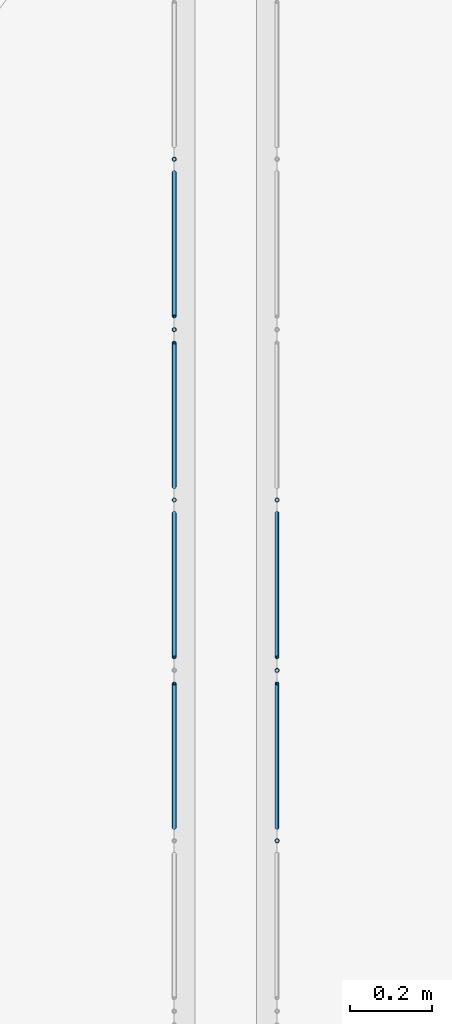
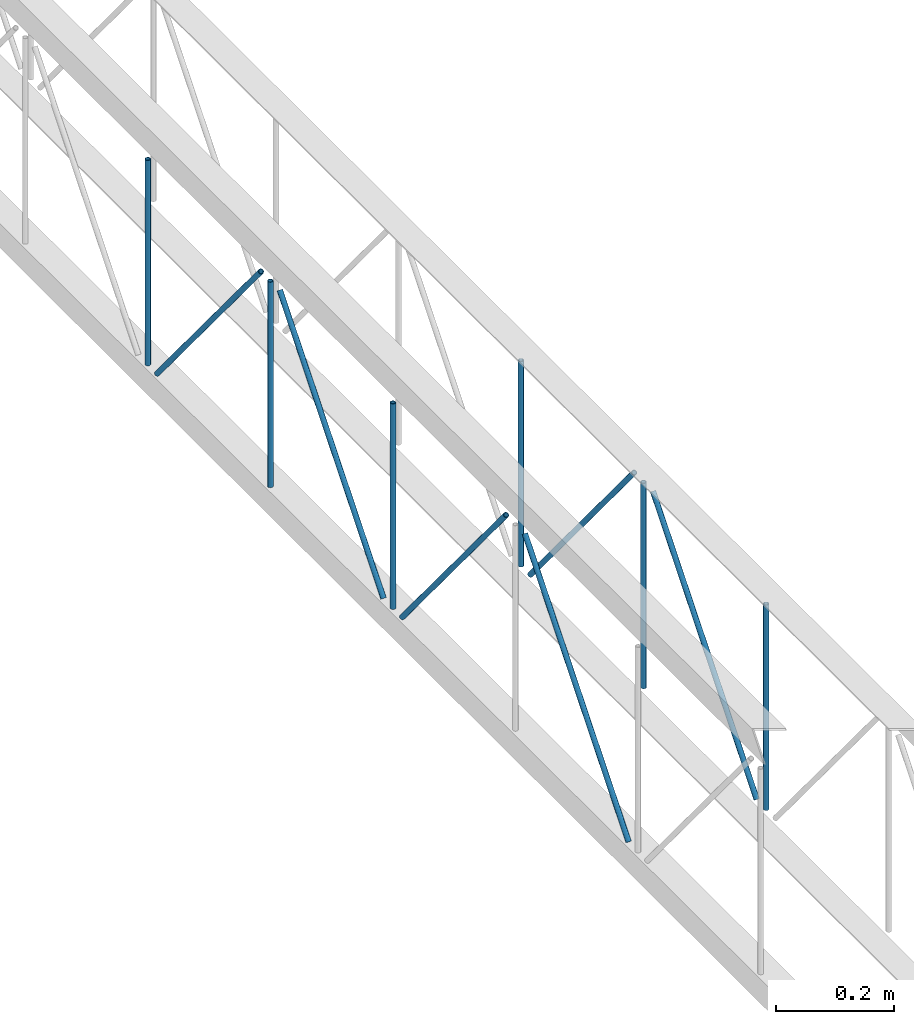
# One storey, part 24 of 153: 12 members, 2 elements without a shape of their own.
"""IFC4 building model written with IfcOpenShell, lengths in metres."""

from ifc_helpers import new_model, entity, si_unit, converted_unit, derived_unit, direction, frame, origin, place, context, subcontext, project, spatial, arc, indexed_curve, outline, extrude, source, transform, mapped, material, type_object, type_shapes, element, aggregate, save


model = new_model("IFC4")

# Units and contexts
model_context = context("Model", 3, precision=1e-05, world=origin(), true_north=direction((6.123031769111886e-17, 1.0)))
body_context = subcontext(model_context, "Body", "Model", "MODEL_VIEW")
ifc_project = project(units=[si_unit("LENGTHUNIT", "METRE"), si_unit("AREAUNIT", "SQUARE_METRE"), si_unit("VOLUMEUNIT", "CUBIC_METRE"), converted_unit("PLANEANGLEUNIT", "DEGREE", entity("IfcRatioMeasure", 0.017453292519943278), si_unit("PLANEANGLEUNIT", "RADIAN"), dimensions=[0, 0, 0, 0, 0, 0, 0]), si_unit("MASSUNIT", "GRAM", prefix="KILO"), derived_unit("MASSDENSITYUNIT", [(si_unit("MASSUNIT", "GRAM", prefix="KILO"), 1), (si_unit("LENGTHUNIT", "METRE"), -3)]), derived_unit("MOMENTOFINERTIAUNIT", [(si_unit("LENGTHUNIT", "METRE"), 4)]), si_unit("TIMEUNIT", "SECOND"), si_unit("FREQUENCYUNIT", "HERTZ"), si_unit("THERMODYNAMICTEMPERATUREUNIT", "DEGREE_CELSIUS"), derived_unit("THERMALTRANSMITTANCEUNIT", [(si_unit("MASSUNIT", "GRAM", prefix="KILO"), 1), (si_unit("THERMODYNAMICTEMPERATUREUNIT", "KELVIN"), -1), (si_unit("TIMEUNIT", "SECOND"), -3)]), derived_unit("VOLUMETRICFLOWRATEUNIT", [(si_unit("LENGTHUNIT", "METRE"), 3), (si_unit("TIMEUNIT", "SECOND"), -1)]), derived_unit("MASSFLOWRATEUNIT", [(si_unit("MASSUNIT", "GRAM", prefix="KILO"), 1), (si_unit("TIMEUNIT", "SECOND"), -1)]), derived_unit("ROTATIONALFREQUENCYUNIT", [(si_unit("TIMEUNIT", "SECOND"), -1)]), si_unit("ELECTRICCURRENTUNIT", "AMPERE"), si_unit("ELECTRICVOLTAGEUNIT", "VOLT"), si_unit("POWERUNIT", "WATT"), si_unit("FORCEUNIT", "NEWTON", prefix="KILO"), si_unit("ILLUMINANCEUNIT", "LUX"), si_unit("LUMINOUSFLUXUNIT", "LUMEN"), si_unit("LUMINOUSINTENSITYUNIT", "CANDELA"), derived_unit("USERDEFINED", [(si_unit("MASSUNIT", "GRAM", prefix="KILO"), -1), (si_unit("LENGTHUNIT", "METRE"), -2), (si_unit("TIMEUNIT", "SECOND"), 3), (si_unit("LUMINOUSFLUXUNIT", "LUMEN"), 1)]), derived_unit("SOUNDPOWERUNIT", [(si_unit("MASSUNIT", "GRAM", prefix="KILO"), 1), (si_unit("LENGTHUNIT", "METRE"), 2), (si_unit("TIMEUNIT", "SECOND"), -3)]), derived_unit("SOUNDPRESSUREUNIT", [(si_unit("MASSUNIT", "GRAM", prefix="KILO"), 1), (si_unit("LENGTHUNIT", "METRE"), -1), (si_unit("TIMEUNIT", "SECOND"), -2)]), derived_unit("LINEARVELOCITYUNIT", [(si_unit("LENGTHUNIT", "METRE"), 1), (si_unit("TIMEUNIT", "SECOND"), -1)]), si_unit("PRESSUREUNIT", "PASCAL"), derived_unit("USERDEFINED", [(si_unit("LENGTHUNIT", "METRE"), -2), (si_unit("MASSUNIT", "GRAM", prefix="KILO"), 1), (si_unit("TIMEUNIT", "SECOND"), -2)]), derived_unit("LINEARFORCEUNIT", [(si_unit("MASSUNIT", "GRAM", prefix="KILO"), 1), (si_unit("LENGTHUNIT", "METRE"), 1), (si_unit("TIMEUNIT", "SECOND"), -2), (si_unit("LENGTHUNIT", "METRE"), -1)]), derived_unit("PLANARFORCEUNIT", [(si_unit("MASSUNIT", "GRAM", prefix="KILO"), 1), (si_unit("LENGTHUNIT", "METRE"), 1), (si_unit("TIMEUNIT", "SECOND"), -2), (si_unit("LENGTHUNIT", "METRE"), -2)])], contexts=[model_context])

# Site, building, storey
site_placement = place(None, origin())
site = spatial("IfcSite", under=ifc_project, at=site_placement, Name="Superficie", CompositionType="ELEMENT")
building_placement = place(site_placement, origin())
building = spatial("IfcBuilding", under=site, at=building_placement, CompositionType="ELEMENT")
storey_placement = place(building_placement, frame((0.0, 0.0, 3.5999999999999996)))
storey = spatial("IfcBuildingStorey", under=building, at=storey_placement, Name="Nivel 1", CompositionType="ELEMENT", Elevation=3.5999999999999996)

# Assembly, members
assembly_1_placement = place(storey_placement, origin())
assembly_1 = element("IfcElementAssembly", 1, at=assembly_1_placement, inside=storey, Name="Viga de celosia 13:Viga de celosia 13", ObjectType="Viga de celosia 13:Viga de celosia 13", AssemblyPlace="NOTDEFINED", PredefinedType="TRUSS")
ifc_material = material(Name="Metal - Calibre delgado", Category="Metal")
member_type_1 = type_object("IfcMemberType", Name="HSS-Tubo estructural redondo:HSS 0.01", PredefinedType="BRACE", material=ifc_material)
shared_shape_1 = source(origin(), body_context, "Body", "SweptSolid", [
    extrude(outline(indexed_curve([(-0.005000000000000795, 7.502054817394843e-18), (-9.800269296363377e-18, -0.005000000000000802), (0.005000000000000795, -7.502054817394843e-18), (8.07772287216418e-18, 0.005000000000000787)], segments=[arc(1, 2, 3), arc(3, 4, 1)], self_intersect=False), holes=[indexed_curve([(0.003999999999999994, 7.222511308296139e-17), (6.910645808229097e-17, -0.004000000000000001), (-0.003999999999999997, -1.8650054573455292e-17), (-2.9156497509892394e-17, 0.003999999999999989)], segments=[arc(1, 2, 3), arc(3, 4, 1)], self_intersect=False)]), frame((-0.21200000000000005, 0.0, 0.0), z_axis=(1.0, 0.0, 0.0), x_axis=(0.0, 1.0, 0.0)), (0.0, 0.0, 1.0), 0.4240000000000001),
])
type_shapes(member_type_1, [shared_shape_1])
member_1_placement = place(assembly_1_placement, frame((-18.70320098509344, -6.2340293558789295, 0.24999999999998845), z_axis=(0.0, 1.0, 0.0), x_axis=(0.0, 0.0, 1.0)))
member_1 = element("IfcMember", 2, at=member_1_placement, type_object=member_type_1, material=ifc_material, Name="HSS-Tubo estructural redondo:HSS 0.01", ObjectType="HSS-Tubo estructural redondo:HSS 0.01", PredefinedType="BRACE", context=body_context, shape_type="MappedRepresentation", body=[
    mapped(shared_shape_1, transform((0.0, 0.0, 0.0), scale=1.0)),
])
member_2_placement = place(assembly_1_placement, frame((-18.70320098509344, -5.819683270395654, 0.25), z_axis=(0.0, 1.0, 0.0), x_axis=(0.0, 0.0, 1.0)))
member_2 = element("IfcMember", 3, at=member_2_placement, type_object=member_type_1, material=ifc_material, Name="HSS-Tubo estructural redondo:HSS 0.01", ObjectType="HSS-Tubo estructural redondo:HSS 0.01", PredefinedType="BRACE", context=body_context, shape_type="MappedRepresentation", body=[
    mapped(shared_shape_1, transform((0.0, 0.0, 0.0), scale=1.0)),
])
member_3_placement = place(assembly_1_placement, frame((-18.70320098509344, -5.405337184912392, 0.25), z_axis=(0.0, 1.0, 0.0), x_axis=(0.0, 0.0, 1.0)))
member_3 = element("IfcMember", 4, at=member_3_placement, type_object=member_type_1, material=ifc_material, Name="HSS-Tubo estructural redondo:HSS 0.01", ObjectType="HSS-Tubo estructural redondo:HSS 0.01", PredefinedType="BRACE", context=body_context, shape_type="MappedRepresentation", body=[
    mapped(shared_shape_1, transform((0.0, 0.0, 0.0), scale=1.0)),
])
member_type_2 = type_object("IfcMemberType", Name="HSS-Tubo estructural redondo:HSS 0.01", PredefinedType="BRACE", material=ifc_material)
shared_shape_2 = source(origin(), body_context, "Body", "SweptSolid", [
    extrude(outline(indexed_curve([(-0.005000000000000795, 7.502054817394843e-18), (-9.800269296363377e-18, -0.005000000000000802), (0.005000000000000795, -7.502054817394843e-18), (8.07772287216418e-18, 0.005000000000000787)], segments=[arc(1, 2, 3), arc(3, 4, 1)], self_intersect=False), holes=[indexed_curve([(0.003999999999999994, 7.222511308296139e-17), (6.910645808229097e-17, -0.004000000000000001), (-0.003999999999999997, -1.8650054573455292e-17), (-2.9156497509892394e-17, 0.003999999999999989)], segments=[arc(1, 2, 3), arc(3, 4, 1)], self_intersect=False)]), frame((-0.275, 0.0, 0.0), z_axis=(1.0, 0.0, 0.0), x_axis=(0.0, 1.0, 0.0)), (0.0, 0.0, 1.0), 0.55),
])
type_shapes(member_type_2, [shared_shape_2])
member_4_placement = place(assembly_1_placement, frame((-18.70320098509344, -6.855548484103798, 0.25), z_axis=(0.0, 0.769975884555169, -0.638072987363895), x_axis=(0.0, 0.638072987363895, 0.769975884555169)))
member_4 = element("IfcMember", 5, at=member_4_placement, type_object=member_type_2, material=ifc_material, Name="HSS-Tubo estructural redondo:HSS 0.01", ObjectType="HSS-Tubo estructural redondo:HSS 0.01", PredefinedType="BRACE", context=body_context, shape_type="MappedRepresentation", body=[
    mapped(shared_shape_2, transform((0.0, 0.0, 0.0), scale=1.0)),
])
member_5_placement = place(assembly_1_placement, frame((-18.70320098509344, -6.441202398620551, 0.25000000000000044), z_axis=(0.0, -0.7699758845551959, -0.6380729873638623), x_axis=(0.0, 0.6380729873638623, -0.7699758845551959)))
member_5 = element("IfcMember", 6, at=member_5_placement, type_object=member_type_2, material=ifc_material, Name="HSS-Tubo estructural redondo:HSS 0.01", ObjectType="HSS-Tubo estructural redondo:HSS 0.01", PredefinedType="BRACE", context=body_context, shape_type="MappedRepresentation", body=[
    mapped(shared_shape_2, transform((0.0, 0.0, 0.0), scale=1.0)),
])
member_6_placement = place(assembly_1_placement, frame((-18.70320098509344, -6.026856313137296, 0.25000000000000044), z_axis=(0.0, 0.7699758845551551, -0.6380729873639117), x_axis=(0.0, 0.6380729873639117, 0.7699758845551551)))
member_6 = element("IfcMember", 7, at=member_6_placement, type_object=member_type_2, material=ifc_material, Name="HSS-Tubo estructural redondo:HSS 0.01", ObjectType="HSS-Tubo estructural redondo:HSS 0.01", PredefinedType="BRACE", context=body_context, shape_type="MappedRepresentation", body=[
    mapped(shared_shape_2, transform((0.0, 0.0, 0.0), scale=1.0)),
])
member_7_placement = place(assembly_1_placement, frame((-18.70320098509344, -5.612510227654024, 0.25), z_axis=(0.0, -0.7699758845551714, -0.638072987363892), x_axis=(0.0, 0.638072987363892, -0.7699758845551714)))
member_7 = element("IfcMember", 8, at=member_7_placement, type_object=member_type_2, material=ifc_material, Name="HSS-Tubo estructural redondo:HSS 0.01", ObjectType="HSS-Tubo estructural redondo:HSS 0.01", PredefinedType="BRACE", context=body_context, shape_type="MappedRepresentation", body=[
    mapped(shared_shape_2, transform((0.0, 0.0, 0.0), scale=1.0)),
])
aggregate(assembly_1, [member_1, member_2, member_3, member_4, member_5, member_6, member_7])

assembly_2_placement = place(storey_placement, origin())
assembly_2 = element("IfcElementAssembly", 9, at=assembly_2_placement, inside=storey, Name="Viga de celosia 13:Viga de celosia 13", ObjectType="Viga de celosia 13:Viga de celosia 13", AssemblyPlace="NOTDEFINED", PredefinedType="TRUSS")
member_type_3 = type_object("IfcMemberType", Name="HSS-Tubo estructural redondo:HSS 0.01", PredefinedType="BRACE", material=ifc_material)
shared_shape_3 = source(origin(), body_context, "Body", "SweptSolid", [
    extrude(outline(indexed_curve([(-0.005000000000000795, 2.0824731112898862e-17), (-2.3122945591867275e-17, -0.005000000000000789), (0.005000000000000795, -2.08247311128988e-17), (2.14003991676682e-17, 0.005000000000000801)], segments=[arc(1, 2, 3), arc(3, 4, 1)], self_intersect=False), holes=[indexed_curve([(0.003999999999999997, -1.3094283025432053e-17), (-1.531427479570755e-18, -0.003999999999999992), (-0.004, 4.0098531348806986e-17), (4.1481388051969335e-17, 0.0039999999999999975)], segments=[arc(1, 2, 3), arc(3, 4, 1)], self_intersect=False)]), frame((-0.21200000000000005, 0.0, 0.0), z_axis=(1.0, 0.0, 0.0), x_axis=(0.0, -1.0, 0.0)), (0.0, 0.0, 1.0), 0.4240000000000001),
])
type_shapes(member_type_3, [shared_shape_3])
member_8_placement = place(assembly_2_placement, frame((-18.45320098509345, -7.062721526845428, 0.25), z_axis=(0.0, 1.0, 0.0), x_axis=(0.0, 0.0, 1.0)))
member_8 = element("IfcMember", 10, at=member_8_placement, type_object=member_type_3, material=ifc_material, Name="HSS-Tubo estructural redondo:HSS 0.01", ObjectType="HSS-Tubo estructural redondo:HSS 0.01", PredefinedType="BRACE", context=body_context, shape_type="MappedRepresentation", body=[
    mapped(shared_shape_3, transform((0.0, 0.0, 0.0), scale=1.0)),
])
member_9_placement = place(assembly_2_placement, frame((-18.45320098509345, -6.648375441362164, 0.25), z_axis=(0.0, 1.0, 0.0), x_axis=(0.0, 0.0, 1.0)))
member_9 = element("IfcMember", 11, at=member_9_placement, type_object=member_type_3, material=ifc_material, Name="HSS-Tubo estructural redondo:HSS 0.01", ObjectType="HSS-Tubo estructural redondo:HSS 0.01", PredefinedType="BRACE", context=body_context, shape_type="MappedRepresentation", body=[
    mapped(shared_shape_3, transform((0.0, 0.0, 0.0), scale=1.0)),
])
member_10_placement = place(assembly_2_placement, frame((-18.45320098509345, -6.2340293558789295, 0.24999999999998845), z_axis=(0.0, 1.0, 0.0), x_axis=(0.0, 0.0, 1.0)))
member_10 = element("IfcMember", 12, at=member_10_placement, type_object=member_type_3, material=ifc_material, Name="HSS-Tubo estructural redondo:HSS 0.01", ObjectType="HSS-Tubo estructural redondo:HSS 0.01", PredefinedType="BRACE", context=body_context, shape_type="MappedRepresentation", body=[
    mapped(shared_shape_3, transform((0.0, 0.0, 0.0), scale=1.0)),
])
member_type_4 = type_object("IfcMemberType", Name="HSS-Tubo estructural redondo:HSS 0.01", PredefinedType="BRACE", material=ifc_material)
shared_shape_4 = source(origin(), body_context, "Body", "SweptSolid", [
    extrude(outline(indexed_curve([(-0.005000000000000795, 2.0824731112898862e-17), (-2.3122945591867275e-17, -0.005000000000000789), (0.005000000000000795, -2.08247311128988e-17), (2.14003991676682e-17, 0.005000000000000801)], segments=[arc(1, 2, 3), arc(3, 4, 1)], self_intersect=False), holes=[indexed_curve([(0.003999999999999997, -1.3094283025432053e-17), (-1.531427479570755e-18, -0.003999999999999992), (-0.004, 4.0098531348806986e-17), (4.1481388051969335e-17, 0.0039999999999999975)], segments=[arc(1, 2, 3), arc(3, 4, 1)], self_intersect=False)]), frame((-0.275, 0.0, 0.0), z_axis=(1.0, 0.0, 0.0), x_axis=(0.0, -1.0, 0.0)), (0.0, 0.0, 1.0), 0.55),
])
type_shapes(member_type_4, [shared_shape_4])
member_11_placement = place(assembly_2_placement, frame((-18.45320098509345, -6.855548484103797, 0.24999999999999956), z_axis=(0.0, 0.769975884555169, -0.638072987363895), x_axis=(0.0, 0.638072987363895, 0.769975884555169)))
member_11 = element("IfcMember", 13, at=member_11_placement, type_object=member_type_4, material=ifc_material, Name="HSS-Tubo estructural redondo:HSS 0.01", ObjectType="HSS-Tubo estructural redondo:HSS 0.01", PredefinedType="BRACE", context=body_context, shape_type="MappedRepresentation", body=[
    mapped(shared_shape_4, transform((0.0, 0.0, 0.0), scale=1.0)),
])
member_12_placement = place(assembly_2_placement, frame((-18.45320098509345, -6.441202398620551, 0.25000000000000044), z_axis=(0.0, -0.7699758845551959, -0.6380729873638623), x_axis=(0.0, 0.6380729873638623, -0.7699758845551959)))
member_12 = element("IfcMember", 14, at=member_12_placement, type_object=member_type_4, material=ifc_material, Name="HSS-Tubo estructural redondo:HSS 0.01", ObjectType="HSS-Tubo estructural redondo:HSS 0.01", PredefinedType="BRACE", context=body_context, shape_type="MappedRepresentation", body=[
    mapped(shared_shape_4, transform((0.0, 0.0, 0.0), scale=1.0)),
])
aggregate(assembly_2, [member_8, member_9, member_10, member_11, member_12])

save(model, "model.ifc")
